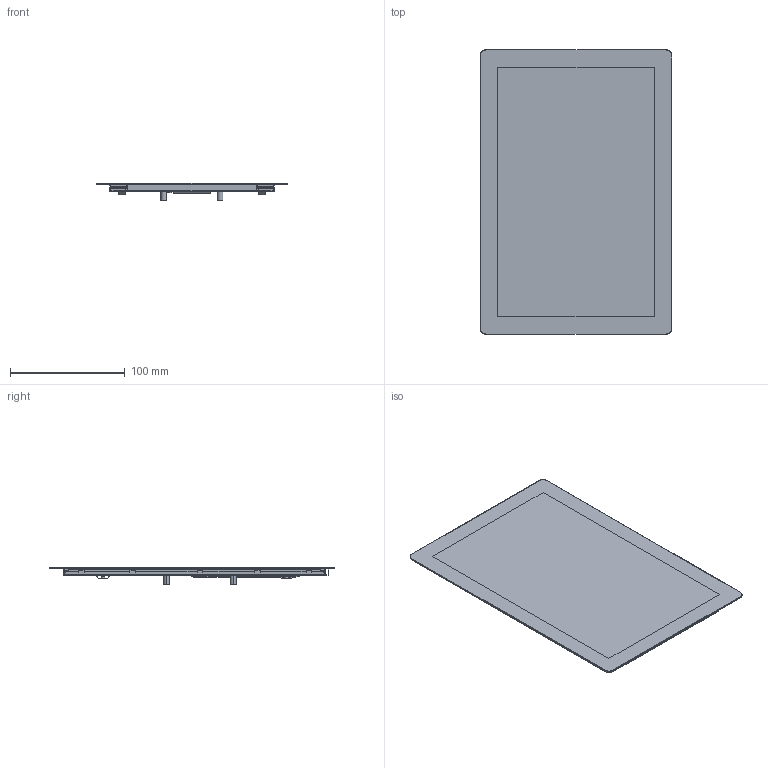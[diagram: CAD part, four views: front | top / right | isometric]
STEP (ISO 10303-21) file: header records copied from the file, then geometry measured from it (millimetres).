
FILE_DESCRIPTION (( 'STEP AP203' ), '1' );
FILE_NAME ('raspberry-pi-touch-display-2-step-10inch.STEP', '2026-09-25T10:40:43', ( '' ), ( '' ), 'SwSTEP 2.0', 'SolidWorks 2021', '' );
FILE_SCHEMA (( 'CONFIG_CONTROL_DESIGN' ));
Length unit declared in the file: millimetre
Products named in the file (8): raspberry-pi-touch-display-2-step-10inch; 666; 555; 444; 222; 111; 777; 333
Assembly tree (7 placements, depth 3):
  raspberry-pi-touch-display-2-step-10inch
    111
      222
      333
      444
      555
      666
      777
Bounding box: 166.88 x 248.1 x 15.6 mm (x, y, z)
Volume: 161797.4 mm3; surface area: 728870.4 mm2
Topology: 18 solids, 18 shells, 1033 faces, 2926 edges, 1928 vertices
Faces by surface type: plane 835, cylinder 186, torus 10, bspline 2
Entity records: 34058 total; most frequent: CARTESIAN_POINT 6042, ORIENTED_EDGE 5852, DIRECTION 5336, EDGE_CURVE 2926, LINE 2528, VECTOR 2528, VERTEX_POINT 1928, AXIS2_PLACEMENT_3D 1404
